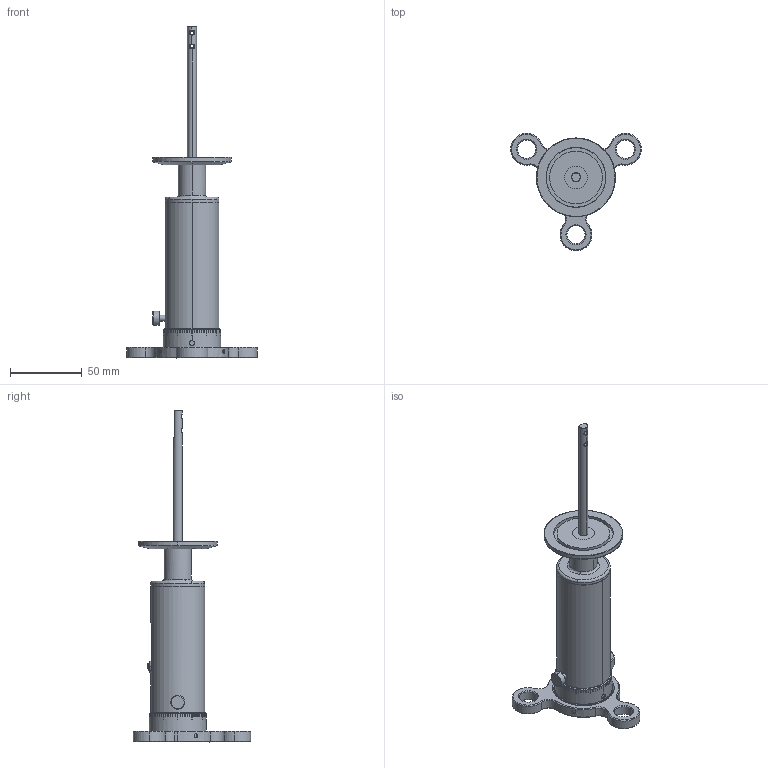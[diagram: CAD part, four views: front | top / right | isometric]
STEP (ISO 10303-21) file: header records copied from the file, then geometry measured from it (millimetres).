
FILE_DESCRIPTION (( 'STEP AP203' ), '1' );
FILE_NAME ('102270-113086.stp', '2019-04-09T15:58:59', ( '' ), ( '' ), 'SwSTEP 2.0', 'SolidWorks 2012', '' );
FILE_SCHEMA (( 'CONFIG_CONTROL_DESIGN' ));
Products named in the file (1): 102270-113086
Bounding box: 90.97 x 81.76 x 231.06 mm (x, y, z)
Volume: 158338 mm3; surface area: 30691.2 mm2
Topology: 1 solids, 1 shells, 969 faces, 2686 edges, 1761 vertices
Faces by surface type: plane 512, cylinder 219, bspline 153, cone 85
Entity records: 56461 total; most frequent: CARTESIAN_POINT 33107, ORIENTED_EDGE 5368, DIRECTION 4169, EDGE_CURVE 2684, VERTEX_POINT 1761, AXIS2_PLACEMENT_3D 1507, VECTOR 1155, LINE 1155
